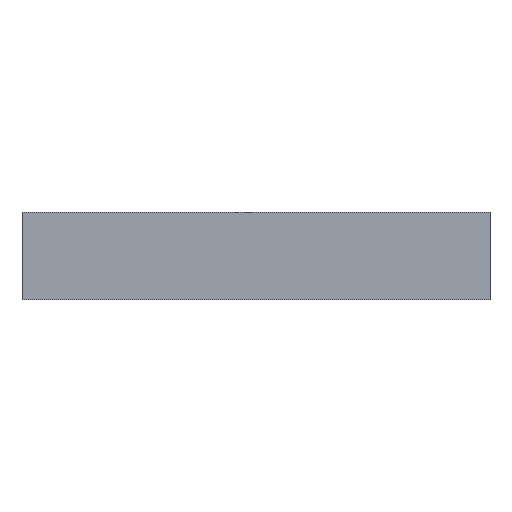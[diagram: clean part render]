
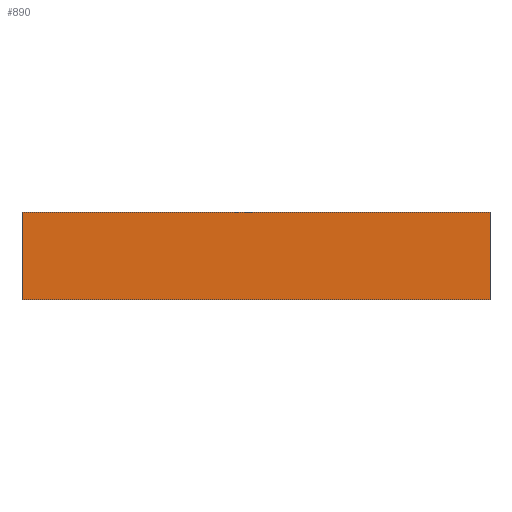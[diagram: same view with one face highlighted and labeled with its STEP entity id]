
A CAD part, left-side view. The second image highlights one B-rep face of the part: STEP entity #890.
In plain terms, the highlighted planar face has unit normal (-1, 0, 0).
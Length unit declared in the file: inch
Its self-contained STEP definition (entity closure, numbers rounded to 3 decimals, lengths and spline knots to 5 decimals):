
#1 = PLANE ( 'NONE',  #1085 ) ;
#75 = CARTESIAN_POINT ( 'NONE',  ( -6.0005, -1.4995, 0. ) ) ;
#109 = EDGE_CURVE ( 'NONE', #1099, #605, #277, .T. ) ;
#114 = FACE_OUTER_BOUND ( 'NONE', #793, .T. ) ;
#161 = VECTOR ( 'NONE', #398, 39.37008 ) ;
#178 = EDGE_CURVE ( 'NONE', #875, #1105, #1035, .T. ) ;
#188 = CARTESIAN_POINT ( 'NONE',  ( -6.0005, 0.5005, 0.375 ) ) ;
#243 = EDGE_CURVE ( 'NONE', #1105, #605, #1275, .T. ) ;
#277 = LINE ( 'NONE', #1120, #331 ) ;
#331 = VECTOR ( 'NONE', #1267, 39.37008 ) ;
#398 = DIRECTION ( 'NONE',  ( 0., -1., 0. ) ) ;
#422 = VECTOR ( 'NONE', #624, 39.37008 ) ;
#430 = CARTESIAN_POINT ( 'NONE',  ( -6.0005, 0., 0. ) ) ;
#520 = CARTESIAN_POINT ( 'NONE',  ( -6.0005, 0.5005, 0. ) ) ;
#544 = ORIENTED_EDGE ( 'NONE', *, *, #243, .T. ) ;
#552 = DIRECTION ( 'NONE',  ( 0., 0., 1. ) ) ;
#564 = DIRECTION ( 'NONE',  ( 0., 0., -1. ) ) ;
#605 = VERTEX_POINT ( 'NONE', #75 ) ;
#624 = DIRECTION ( 'NONE',  ( 0., 1., 0. ) ) ;
#639 = CARTESIAN_POINT ( 'NONE',  ( -6.0005, 0.5005, 0.375 ) ) ;
#670 = CARTESIAN_POINT ( 'NONE',  ( -6.0005, -1.4995, 0.375 ) ) ;
#695 = CARTESIAN_POINT ( 'NONE',  ( -6.0005, 0.5005, 0. ) ) ;
#755 = EDGE_CURVE ( 'NONE', #1099, #875, #758, .T. ) ;
#758 = LINE ( 'NONE', #188, #422 ) ;
#793 = EDGE_LOOP ( 'NONE', ( #544, #1238, #1029, #1003 ) ) ;
#875 = VERTEX_POINT ( 'NONE', #639 ) ;
#890 = ADVANCED_FACE ( 'NONE', ( #114 ), #1, .T. ) ;
#1003 = ORIENTED_EDGE ( 'NONE', *, *, #178, .T. ) ;
#1029 = ORIENTED_EDGE ( 'NONE', *, *, #755, .T. ) ;
#1035 = LINE ( 'NONE', #695, #1175 ) ;
#1082 = DIRECTION ( 'NONE',  ( -1., 0., 0. ) ) ;
#1085 = AXIS2_PLACEMENT_3D ( 'NONE', #520, #1082, #552 ) ;
#1099 = VERTEX_POINT ( 'NONE', #670 ) ;
#1105 = VERTEX_POINT ( 'NONE', #1169 ) ;
#1120 = CARTESIAN_POINT ( 'NONE',  ( -6.0005, -1.4995, 0. ) ) ;
#1169 = CARTESIAN_POINT ( 'NONE',  ( -6.0005, 0.5005, 0. ) ) ;
#1175 = VECTOR ( 'NONE', #564, 39.37008 ) ;
#1238 = ORIENTED_EDGE ( 'NONE', *, *, #109, .F. ) ;
#1267 = DIRECTION ( 'NONE',  ( 0., 0., -1. ) ) ;
#1275 = LINE ( 'NONE', #430, #161 ) ;
